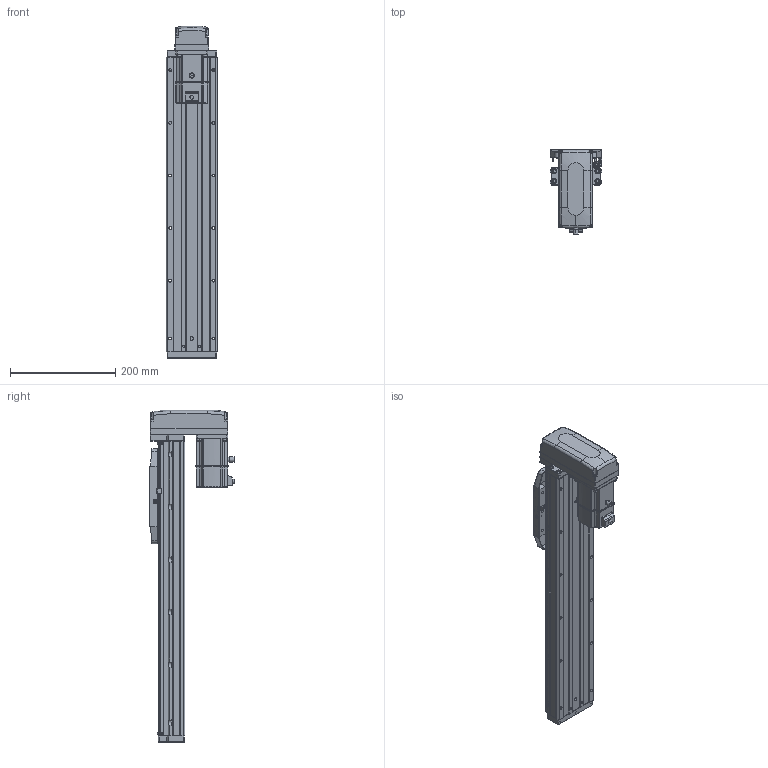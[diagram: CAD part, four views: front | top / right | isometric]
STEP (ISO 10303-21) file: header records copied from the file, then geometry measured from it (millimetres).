
FILE_DESCRIPTION (( 'STEP AP203' ), '1' );
FILE_NAME ('CTHA100-350-BM-M20-C4L.step', '2022-07-06T09:03:45', ( '微软用户' ), ( '微软中国' ), 'SwSTEP 2.0', 'SolidWorks 2020', '' );
FILE_SCHEMA (( 'CONFIG_CONTROL_DESIGN' ));
Length unit declared in the file: millimetre
Products named in the file (19): GBT70.1 M5℅16; CTHA86-015-1_CTHA86-015-2; GB¨uT 70.2-M3¡Á5_M3¡Á6; CTHA60-016; CTHA86-033; EE_SX911P_R; _X2_4E0983F1_X0_200W_1; CTHA100-350-BM-M20-C4L; CTHA60-017; CTHA100-002; CTHA60-021; CTHA100-031; KTHA100-001_560; GBT77-2000 M3×3; CTHA86-030; KTHA100-004; GBT 70.1-M3℅6; GBT 70.3-M3℅6; KTHA100-005
Assembly tree (64 placements, depth 2):
  CTHA100-350-BM-M20-C4L
    KTHA100-001_560
    KTHA100-004
    KTHA100-005
    GB¨uT 70.2-M3¡Á5_M3¡Á6  x10
    EE_SX911P_R  x3
    CTHA60-017  x3
    CTHA60-021  x2
    GBT77-2000 M3×3  x6
    GBT 70.1-M3℅6  x10
    GBT70.1 M5℅16  x14
    CTHA60-016  x2
    _X2_4E0983F1_X0_200W_1
    CTHA100-002
    CTHA100-031
    CTHA86-030  x2
    GBT 70.3-M3℅6  x4
    CTHA86-015-1_CTHA86-015-2
    CTHA86-033
Bounding box: 98.82 x 163.2 x 631 mm (x, y, z)
Volume: 2915703.5 mm3; surface area: 508535.6 mm2
Topology: 66 solids, 66 shells, 2629 faces, 6303 edges, 3904 vertices
Faces by surface type: plane 1368, cylinder 689, cone 349, torus 124, bspline 75, sphere 24
Entity records: 44700 total; most frequent: CARTESIAN_POINT 8811, DIRECTION 6874, ORIENTED_EDGE 6722, EDGE_CURVE 3361, AXIS2_PLACEMENT_3D 2339, LINE 2196, VECTOR 2196, VERTEX_POINT 2124
